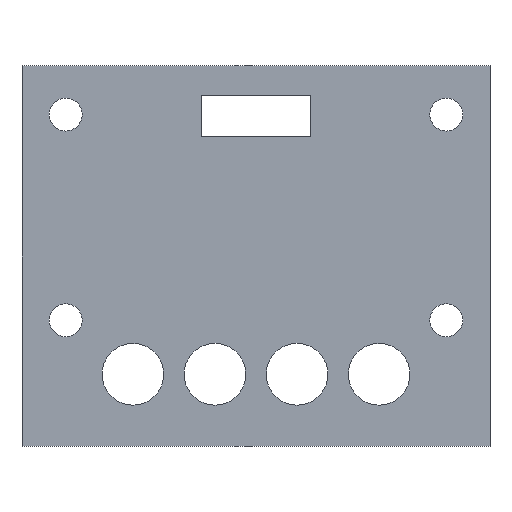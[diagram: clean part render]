
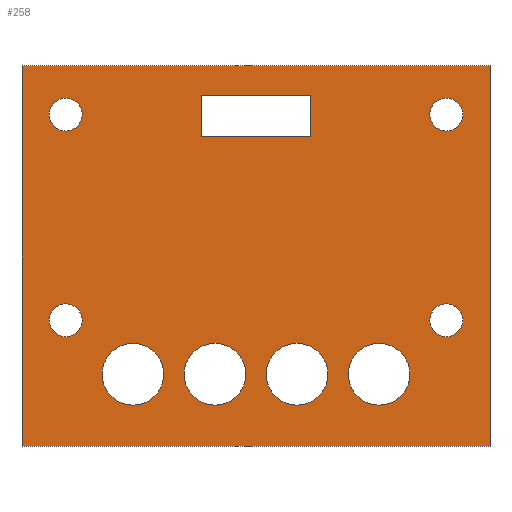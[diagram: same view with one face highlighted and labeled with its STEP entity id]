
A CAD part, front view. The second image highlights one B-rep face of the part: STEP entity #258.
In plain terms, the highlighted planar face has unit normal (0, -1, 0).
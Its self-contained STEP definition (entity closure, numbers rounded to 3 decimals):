
#24 = VERTEX_POINT('',#25);
#25 = CARTESIAN_POINT('',(0.,-4.,0.));
#31 = EDGE_CURVE('',#24,#32,#34,.T.);
#32 = VERTEX_POINT('',#33);
#33 = CARTESIAN_POINT('',(45.5,-4.,0.));
#34 = LINE('',#35,#36);
#35 = CARTESIAN_POINT('',(0.,-4.,0.));
#36 = VECTOR('',#37,1.);
#37 = DIRECTION('',(1.,0.,0.));
#64 = VERTEX_POINT('',#65);
#65 = CARTESIAN_POINT('',(0.,-4.,37.));
#71 = EDGE_CURVE('',#64,#24,#72,.T.);
#72 = LINE('',#73,#74);
#73 = CARTESIAN_POINT('',(0.,-4.,37.));
#74 = VECTOR('',#75,1.);
#75 = DIRECTION('',(0.,0.,-1.));
#93 = EDGE_CURVE('',#32,#94,#96,.T.);
#94 = VERTEX_POINT('',#95);
#95 = CARTESIAN_POINT('',(45.5,-4.,37.));
#96 = LINE('',#97,#98);
#97 = CARTESIAN_POINT('',(45.5,-4.,0.));
#98 = VECTOR('',#99,1.);
#99 = DIRECTION('',(0.,0.,1.));
#258 = ADVANCED_FACE('',(#259,#270,#281,#292,#303,#314,#325,#336,#347,
    #381),#392,.F.);
#259 = FACE_BOUND('',#260,.F.);
#260 = EDGE_LOOP('',(#261,#262,#263,#269));
#261 = ORIENTED_EDGE('',*,*,#31,.F.);
#262 = ORIENTED_EDGE('',*,*,#71,.F.);
#263 = ORIENTED_EDGE('',*,*,#264,.F.);
#264 = EDGE_CURVE('',#94,#64,#265,.T.);
#265 = LINE('',#266,#267);
#266 = CARTESIAN_POINT('',(45.5,-4.,37.));
#267 = VECTOR('',#268,1.);
#268 = DIRECTION('',(-1.,0.,0.));
#269 = ORIENTED_EDGE('',*,*,#93,.F.);
#270 = FACE_BOUND('',#271,.F.);
#271 = EDGE_LOOP('',(#272));
#272 = ORIENTED_EDGE('',*,*,#273,.T.);
#273 = EDGE_CURVE('',#274,#274,#276,.T.);
#274 = VERTEX_POINT('',#275);
#275 = CARTESIAN_POINT('',(13.78,-4.,7.));
#276 = CIRCLE('',#277,3.);
#277 = AXIS2_PLACEMENT_3D('',#278,#279,#280);
#278 = CARTESIAN_POINT('',(10.78,-4.,7.));
#279 = DIRECTION('',(0.,-1.,0.));
#280 = DIRECTION('',(1.,0.,0.));
#281 = FACE_BOUND('',#282,.F.);
#282 = EDGE_LOOP('',(#283));
#283 = ORIENTED_EDGE('',*,*,#284,.T.);
#284 = EDGE_CURVE('',#285,#285,#287,.T.);
#285 = VERTEX_POINT('',#286);
#286 = CARTESIAN_POINT('',(5.85,-4.,12.25));
#287 = CIRCLE('',#288,1.6);
#288 = AXIS2_PLACEMENT_3D('',#289,#290,#291);
#289 = CARTESIAN_POINT('',(4.25,-4.,12.25));
#290 = DIRECTION('',(0.,-1.,0.));
#291 = DIRECTION('',(1.,0.,0.));
#292 = FACE_BOUND('',#293,.F.);
#293 = EDGE_LOOP('',(#294));
#294 = ORIENTED_EDGE('',*,*,#295,.T.);
#295 = EDGE_CURVE('',#296,#296,#298,.T.);
#296 = VERTEX_POINT('',#297);
#297 = CARTESIAN_POINT('',(21.76,-4.,7.));
#298 = CIRCLE('',#299,3.);
#299 = AXIS2_PLACEMENT_3D('',#300,#301,#302);
#300 = CARTESIAN_POINT('',(18.76,-4.,7.));
#301 = DIRECTION('',(0.,-1.,0.));
#302 = DIRECTION('',(1.,0.,0.));
#303 = FACE_BOUND('',#304,.F.);
#304 = EDGE_LOOP('',(#305));
#305 = ORIENTED_EDGE('',*,*,#306,.T.);
#306 = EDGE_CURVE('',#307,#307,#309,.T.);
#307 = VERTEX_POINT('',#308);
#308 = CARTESIAN_POINT('',(5.85,-4.,32.25));
#309 = CIRCLE('',#310,1.6);
#310 = AXIS2_PLACEMENT_3D('',#311,#312,#313);
#311 = CARTESIAN_POINT('',(4.25,-4.,32.25));
#312 = DIRECTION('',(0.,-1.,0.));
#313 = DIRECTION('',(1.,0.,0.));
#314 = FACE_BOUND('',#315,.F.);
#315 = EDGE_LOOP('',(#316));
#316 = ORIENTED_EDGE('',*,*,#317,.T.);
#317 = EDGE_CURVE('',#318,#318,#320,.T.);
#318 = VERTEX_POINT('',#319);
#319 = CARTESIAN_POINT('',(29.74,-4.,7.));
#320 = CIRCLE('',#321,3.);
#321 = AXIS2_PLACEMENT_3D('',#322,#323,#324);
#322 = CARTESIAN_POINT('',(26.74,-4.,7.));
#323 = DIRECTION('',(0.,-1.,0.));
#324 = DIRECTION('',(1.,0.,0.));
#325 = FACE_BOUND('',#326,.F.);
#326 = EDGE_LOOP('',(#327));
#327 = ORIENTED_EDGE('',*,*,#328,.T.);
#328 = EDGE_CURVE('',#329,#329,#331,.T.);
#329 = VERTEX_POINT('',#330);
#330 = CARTESIAN_POINT('',(37.72,-4.,7.));
#331 = CIRCLE('',#332,3.);
#332 = AXIS2_PLACEMENT_3D('',#333,#334,#335);
#333 = CARTESIAN_POINT('',(34.72,-4.,7.));
#334 = DIRECTION('',(0.,-1.,0.));
#335 = DIRECTION('',(1.,0.,0.));
#336 = FACE_BOUND('',#337,.F.);
#337 = EDGE_LOOP('',(#338));
#338 = ORIENTED_EDGE('',*,*,#339,.T.);
#339 = EDGE_CURVE('',#340,#340,#342,.T.);
#340 = VERTEX_POINT('',#341);
#341 = CARTESIAN_POINT('',(42.85,-4.,12.25));
#342 = CIRCLE('',#343,1.6);
#343 = AXIS2_PLACEMENT_3D('',#344,#345,#346);
#344 = CARTESIAN_POINT('',(41.25,-4.,12.25));
#345 = DIRECTION('',(0.,-1.,0.));
#346 = DIRECTION('',(1.,0.,0.));
#347 = FACE_BOUND('',#348,.F.);
#348 = EDGE_LOOP('',(#349,#359,#367,#375));
#349 = ORIENTED_EDGE('',*,*,#350,.F.);
#350 = EDGE_CURVE('',#351,#353,#355,.T.);
#351 = VERTEX_POINT('',#352);
#352 = CARTESIAN_POINT('',(17.42,-4.,34.14));
#353 = VERTEX_POINT('',#354);
#354 = CARTESIAN_POINT('',(28.08,-4.,34.14));
#355 = LINE('',#356,#357);
#356 = CARTESIAN_POINT('',(17.42,-4.,34.14));
#357 = VECTOR('',#358,1.);
#358 = DIRECTION('',(1.,0.,0.));
#359 = ORIENTED_EDGE('',*,*,#360,.F.);
#360 = EDGE_CURVE('',#361,#351,#363,.T.);
#361 = VERTEX_POINT('',#362);
#362 = CARTESIAN_POINT('',(17.42,-4.,30.14));
#363 = LINE('',#364,#365);
#364 = CARTESIAN_POINT('',(17.42,-4.,30.14));
#365 = VECTOR('',#366,1.);
#366 = DIRECTION('',(0.,0.,1.));
#367 = ORIENTED_EDGE('',*,*,#368,.F.);
#368 = EDGE_CURVE('',#369,#361,#371,.T.);
#369 = VERTEX_POINT('',#370);
#370 = CARTESIAN_POINT('',(28.08,-4.,30.14));
#371 = LINE('',#372,#373);
#372 = CARTESIAN_POINT('',(28.08,-4.,30.14));
#373 = VECTOR('',#374,1.);
#374 = DIRECTION('',(-1.,0.,0.));
#375 = ORIENTED_EDGE('',*,*,#376,.F.);
#376 = EDGE_CURVE('',#353,#369,#377,.T.);
#377 = LINE('',#378,#379);
#378 = CARTESIAN_POINT('',(28.08,-4.,34.14));
#379 = VECTOR('',#380,1.);
#380 = DIRECTION('',(0.,0.,-1.));
#381 = FACE_BOUND('',#382,.F.);
#382 = EDGE_LOOP('',(#383));
#383 = ORIENTED_EDGE('',*,*,#384,.T.);
#384 = EDGE_CURVE('',#385,#385,#387,.T.);
#385 = VERTEX_POINT('',#386);
#386 = CARTESIAN_POINT('',(42.85,-4.,32.25));
#387 = CIRCLE('',#388,1.6);
#388 = AXIS2_PLACEMENT_3D('',#389,#390,#391);
#389 = CARTESIAN_POINT('',(41.25,-4.,32.25));
#390 = DIRECTION('',(0.,-1.,0.));
#391 = DIRECTION('',(1.,0.,0.));
#392 = PLANE('',#393);
#393 = AXIS2_PLACEMENT_3D('',#394,#395,#396);
#394 = CARTESIAN_POINT('',(22.75,-4.,18.5));
#395 = DIRECTION('',(0.,1.,0.));
#396 = DIRECTION('',(0.,0.,1.));
